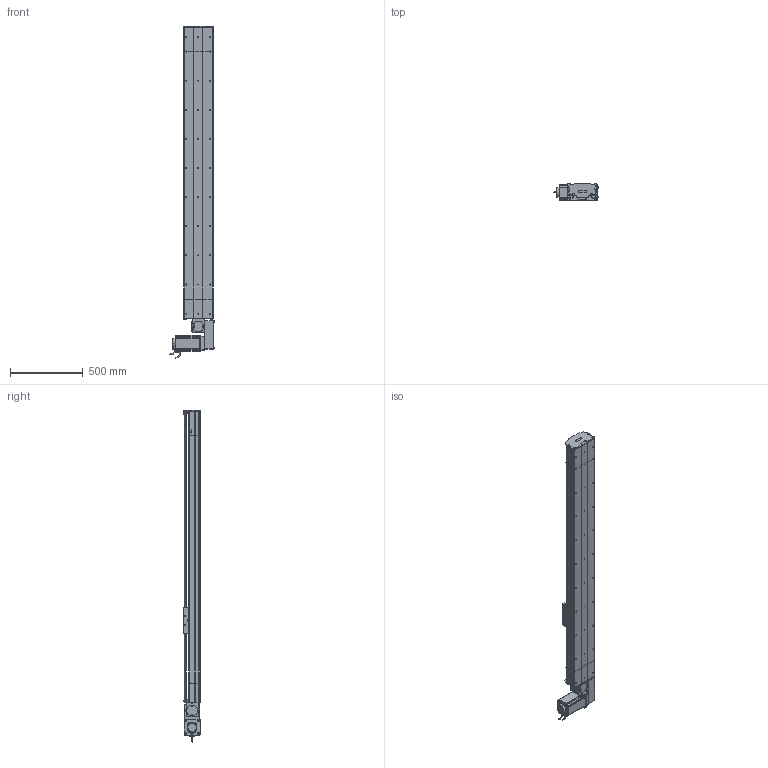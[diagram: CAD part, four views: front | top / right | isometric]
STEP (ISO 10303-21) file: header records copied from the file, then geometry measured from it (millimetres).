
FILE_DESCRIPTION (( 'STEP AP214' ), '1' );
FILE_NAME ('D20 TBH LH S1700.STEP', '2010-07-01T07:33:27', ( 'Conseil Régional Haute-Normandie' ), ( 'Conseil Régional Haute-Normandie' ), 'SwSTEP 2.0', 'SolidWorks 2010', '' );
FILE_SCHEMA (( 'AUTOMOTIVE_DESIGN' ));
Length unit declared in the file: millimetre
Products named in the file (40): vis M5 L25_Default; D20 TBH LH S1700; Renvoi LH D20_Default; vis M5 L5_Default; codeur 110BLDC170A-630x; Plaque racord D20LH_Default; vis M5 L70_Default; Moteur motionking 110BLDC170A-640x; corps 110BLDC170A-630x; plaque de  bout tail D20_Default; avant 110BLDC170A-630x; vis M8 L12_Default; clavette; Conecteur_Default; corpl tail D20 +100_Default; tail D20+100_Default; poulie tail D20_Default; Conecteur2_Default; vis M5 L12_Default; Couroie tail D20_Default; couvercle tail D20_Default; vis M5 L8 90°_Default; tete d''axe poulie D20B; rail tail D20; chariot D20B_Default; couroie_Default; cache D20_Default; plaque de  bout head D20B LH_Default; rail + couroie  D20 S1700; cache arbre D20_Default; rail head D20; guide D20B; Chariot D20B; couvercle D20 S1700_Default; poulie head D20_Default; couvercle head D20_Default; corpl head D20_Default; head LH_Default; corp D20 S1700_Default; Course B L1700_Default
Assembly tree (71 placements, depth 4):
  D20 TBH LH S1700
    Course B L1700_Default
      rail + couroie  D20 S1700
      couvercle D20 S1700_Default
      corp D20 S1700_Default
    head LH_Default
      poulie head D20_Default
      vis M5 L12_Default  x10
      cache D20_Default  x2
      Moteur motionking 110BLDC170A-640x
        Conecteur2_Default
        corps 110BLDC170A-630x
        codeur 110BLDC170A-630x
        clavette
        avant 110BLDC170A-630x
        Conecteur_Default
      vis M8 L12_Default  x4
      vis M5 L5_Default  x4
      vis M5 L70_Default  x4
      Plaque racord D20LH_Default
      couvercle head D20_Default
      vis M5 L25_Default  x2
      cache arbre D20_Default
      rail head D20
      plaque de  bout head D20B LH_Default
      corpl head D20_Default
      Renvoi LH D20_Default
      couroie_Default
    chariot D20B_Default
      vis M5 L12_Default  x4
      guide D20B  x2
      Chariot D20B
    tail D20+100_Default
      tete d''axe poulie D20B
      poulie tail D20_Default
      vis M5 L25_Default  x2
      corpl tail D20 +100_Default
      plaque de  bout tail D20_Default
      vis M5 L12_Default  x4
      rail tail D20
      vis M5 L8 90°_Default  x2
      Couroie tail D20_Default
      couvercle tail D20_Default
Bounding box: 304.2 x 115.7 x 2280 mm (x, y, z)
Volume: 18230968.6 mm3; surface area: 4349018.1 mm2
Topology: 95 solids, 95 shells, 2762 faces, 6984 edges, 4507 vertices
Faces by surface type: plane 1629, cylinder 809, bspline 136, cone 99, torus 89
Entity records: 87181 total; most frequent: CARTESIAN_POINT 27909, ORIENTED_EDGE 10624, DIRECTION 10035, EDGE_CURVE 5312, VERTEX_POINT 3493, LINE 3457, VECTOR 3457, AXIS2_PLACEMENT_3D 3289
